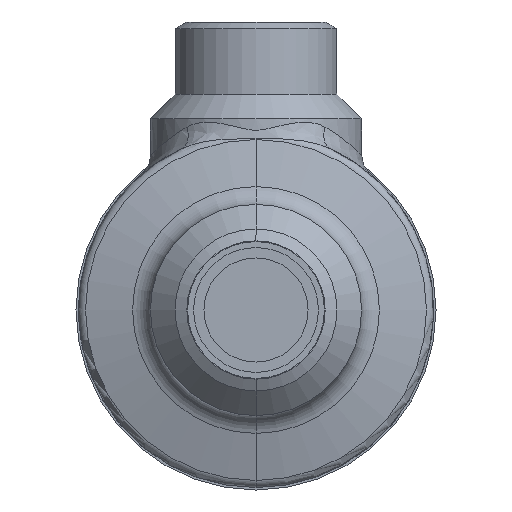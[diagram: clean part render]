
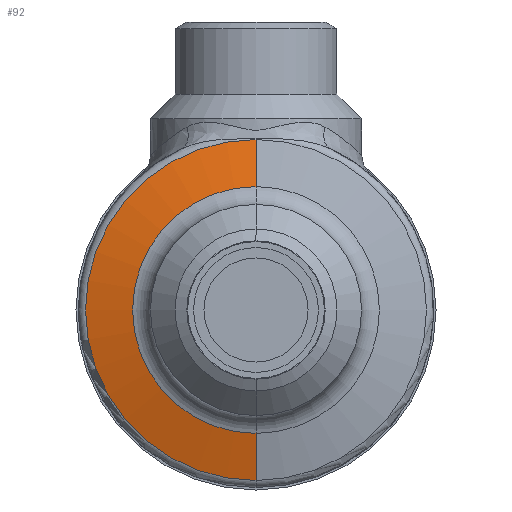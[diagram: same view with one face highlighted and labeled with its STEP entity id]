
A CAD part, front view. The second image highlights one B-rep face of the part: STEP entity #92.
In plain terms, the highlighted conical face has half-angle 75 degrees and reference radius 37 mm.
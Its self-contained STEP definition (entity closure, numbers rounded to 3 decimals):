
#92 = ADVANCED_FACE ( 'NONE', ( #12353 ), #12354, .T. ) ;
#779 = CARTESIAN_POINT ( 'NONE',  ( 0., -64.378, 35.518 ) ) ;
#946 = CIRCLE ( 'NONE', #949, 35.518 ) ;
#949 = AXIS2_PLACEMENT_3D ( 'NONE', #950, #951, #952 ) ;
#950 = CARTESIAN_POINT ( 'NONE',  ( 0., -64.378, 0. ) ) ;
#951 = DIRECTION ( 'NONE',  ( 0., -1., 0. ) ) ;
#952 = DIRECTION ( 'NONE',  ( 0., 0., -1. ) ) ;
#1508 = VERTEX_POINT ( 'NONE', #779 ) ;
#1817 = CARTESIAN_POINT ( 'NONE',  ( 0., -64.378, -35.518 ) ) ;
#1839 = LINE ( 'NONE', #1840, #1841 ) ;
#1840 = CARTESIAN_POINT ( 'NONE',  ( 0., -63.981, 37. ) ) ;
#1841 = VECTOR ( 'NONE', #1842, 1000. ) ;
#1842 = DIRECTION ( 'NONE',  ( 0., 0.259, 0.966 ) ) ;
#2371 = LINE ( 'NONE', #2372, #2373 ) ;
#2372 = CARTESIAN_POINT ( 'NONE',  ( 0., -63.981, -37. ) ) ;
#2373 = VECTOR ( 'NONE', #2374, 1000. ) ;
#2374 = DIRECTION ( 'NONE',  ( 0., 0.259, -0.966 ) ) ;
#5238 = VERTEX_POINT ( 'NONE', #11567 ) ;
#6609 = ORIENTED_EDGE ( 'NONE', *, *, #10692, .T. ) ;
#7216 = EDGE_CURVE ( 'NONE', #5238, #1508, #1839, .T. ) ;
#8575 = VERTEX_POINT ( 'NONE', #10842 ) ;
#9349 = EDGE_CURVE ( 'NONE', #8575, #5238, #12447, .T. ) ;
#10692 = EDGE_CURVE ( 'NONE', #1508, #11692, #946, .T. ) ;
#10842 = CARTESIAN_POINT ( 'NONE',  ( 0., -67.007, -25.706 ) ) ;
#10972 = ORIENTED_EDGE ( 'NONE', *, *, #9349, .T. ) ;
#11567 = CARTESIAN_POINT ( 'NONE',  ( 0., -67.007, 25.706 ) ) ;
#11692 = VERTEX_POINT ( 'NONE', #1817 ) ;
#12161 = ORIENTED_EDGE ( 'NONE', *, *, #7216, .T. ) ;
#12353 = FACE_OUTER_BOUND ( 'NONE', #15008, .T. ) ;
#12354 = CONICAL_SURFACE ( 'NONE', #12355, 37., 1.309 ) ;
#12355 = AXIS2_PLACEMENT_3D ( 'NONE', #12356, #12357, #12358 ) ;
#12356 = CARTESIAN_POINT ( 'NONE',  ( 0., -63.981, 0. ) ) ;
#12357 = DIRECTION ( 'NONE',  ( 0., 1., 0. ) ) ;
#12358 = DIRECTION ( 'NONE',  ( 0., 0., 1. ) ) ;
#12447 = CIRCLE ( 'NONE', #12448, 25.706 ) ;
#12448 = AXIS2_PLACEMENT_3D ( 'NONE', #12449, #12450, #12451 ) ;
#12449 = CARTESIAN_POINT ( 'NONE',  ( 0., -67.007, 0. ) ) ;
#12450 = DIRECTION ( 'NONE',  ( 0., 1., 0. ) ) ;
#12451 = DIRECTION ( 'NONE',  ( 0., 0., -1. ) ) ;
#13831 = EDGE_CURVE ( 'NONE', #8575, #11692, #2371, .T. ) ;
#14851 = ORIENTED_EDGE ( 'NONE', *, *, #13831, .F. ) ;
#15008 = EDGE_LOOP ( 'NONE', ( #14851, #10972, #12161, #6609 ) ) ;
